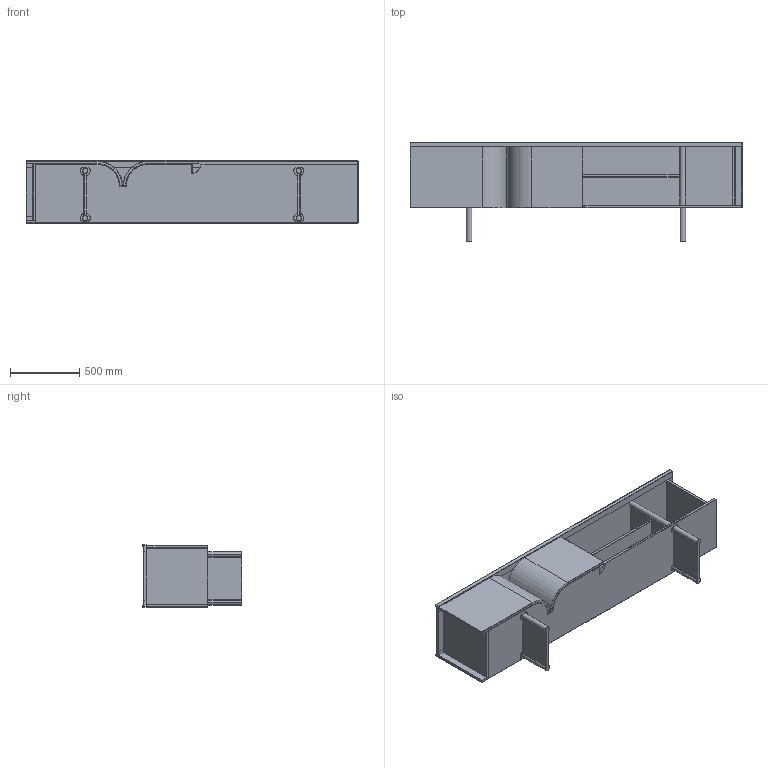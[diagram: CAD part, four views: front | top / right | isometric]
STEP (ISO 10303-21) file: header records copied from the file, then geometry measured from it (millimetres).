
FILE_DESCRIPTION (( 'STEP AP203' ), '1' );
FILE_NAME ('FLESSO SIDEBOARD.STEP', '2024-08-09T06:41:16', ( '' ), ( '' ), 'SwSTEP 2.0', 'SolidWorks 2024', '' );
FILE_SCHEMA (( 'CONFIG_CONTROL_DESIGN' ));
Length unit declared in the file: millimetre
Products named in the file (2): Group1^FLESSO SIDEBOARD; FLESSO SIDEBOARD
Assembly tree (1 placements, depth 2):
  FLESSO SIDEBOARD
    Group1^FLESSO SIDEBOARD
Bounding box: 2400 x 720 x 450 mm (x, y, z)
Volume: 99436094.6 mm3; surface area: 10089868.2 mm2
Topology: 3 solids, 3 shells, 413 faces, 978 edges, 533 vertices
Faces by surface type: cylinder 178, plane 123, sphere 59, torus 53
Entity records: 11852 total; most frequent: CARTESIAN_POINT 2263, DIRECTION 2166, ORIENTED_EDGE 1868, EDGE_CURVE 934, AXIS2_PLACEMENT_3D 849, VERTEX_POINT 530, LINE 468, VECTOR 468
